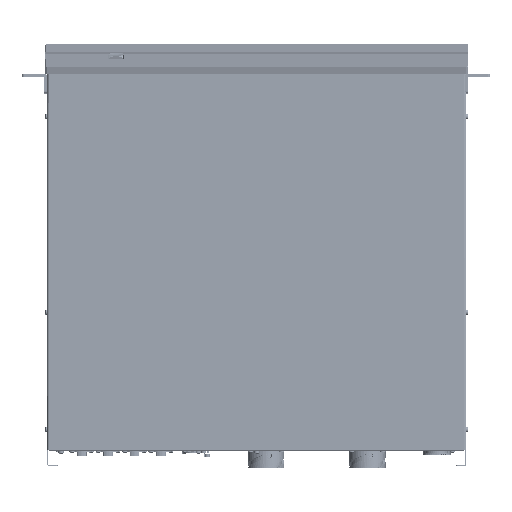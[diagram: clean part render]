
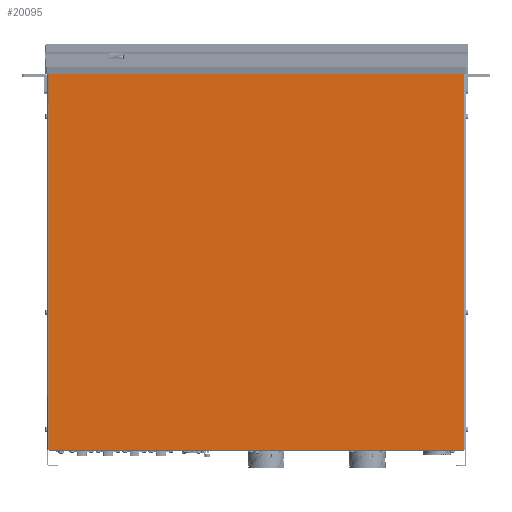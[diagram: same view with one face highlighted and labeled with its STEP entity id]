
A CAD part, top view. The second image highlights one B-rep face of the part: STEP entity #20095.
In plain terms, the highlighted planar face has unit normal (0, 0, 1).
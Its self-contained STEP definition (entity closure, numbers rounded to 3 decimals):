
#20095=ADVANCED_FACE('',(#34084),#261260,.T.);
#34084=FACE_OUTER_BOUND('',#50653,.T.);
#50653=EDGE_LOOP('',(#119677,#119678,#119679,#119680));
#119677=ORIENTED_EDGE('',*,*,#168380,.T.);
#119678=ORIENTED_EDGE('',*,*,#168381,.T.);
#119679=ORIENTED_EDGE('',*,*,#168382,.T.);
#119680=ORIENTED_EDGE('',*,*,#168383,.T.);
#168380=EDGE_CURVE('',#256288,#256289,#199778,.T.);
#168381=EDGE_CURVE('',#256289,#256290,#199779,.T.);
#168382=EDGE_CURVE('',#256290,#256291,#199780,.T.);
#168383=EDGE_CURVE('',#256291,#256288,#199781,.T.);
#199778=B_SPLINE_CURVE_WITH_KNOTS('',1,(#518639,#518640),.UNSPECIFIED.,
 .F.,.F.,(2,2),(0.,424.4),.UNSPECIFIED.);
#199779=B_SPLINE_CURVE_WITH_KNOTS('',1,(#518641,#518642),.UNSPECIFIED.,
 .F.,.F.,(2,2),(0.,384.5),.UNSPECIFIED.);
#199780=B_SPLINE_CURVE_WITH_KNOTS('',1,(#518643,#518644),.UNSPECIFIED.,
 .F.,.F.,(2,2),(0.,424.4),.UNSPECIFIED.);
#199781=B_SPLINE_CURVE_WITH_KNOTS('',1,(#518645,#518646),.UNSPECIFIED.,
 .F.,.F.,(2,2),(0.,384.5),.UNSPECIFIED.);
#256288=VERTEX_POINT('',#510743);
#256289=VERTEX_POINT('',#510744);
#256290=VERTEX_POINT('',#510745);
#256291=VERTEX_POINT('',#510746);
#261260=PLANE('',#288424);
#288424=AXIS2_PLACEMENT_3D('',#499057,#322889,$);
#322889=DIRECTION('',(0.,0.,1.));
#499057=CARTESIAN_POINT('',(-230.7,-254.64,0.));
#510743=CARTESIAN_POINT('',(192.25,-212.2,0.));
#510744=CARTESIAN_POINT('',(192.25,212.2,0.));
#510745=CARTESIAN_POINT('',(-192.25,212.2,0.));
#510746=CARTESIAN_POINT('',(-192.25,-212.2,0.));
#518639=CARTESIAN_POINT('',(192.25,-212.2,0.));
#518640=CARTESIAN_POINT('',(192.25,212.2,0.));
#518641=CARTESIAN_POINT('',(192.25,212.2,0.));
#518642=CARTESIAN_POINT('',(-192.25,212.2,0.));
#518643=CARTESIAN_POINT('',(-192.25,212.2,0.));
#518644=CARTESIAN_POINT('',(-192.25,-212.2,0.));
#518645=CARTESIAN_POINT('',(-192.25,-212.2,0.));
#518646=CARTESIAN_POINT('',(192.25,-212.2,0.));
